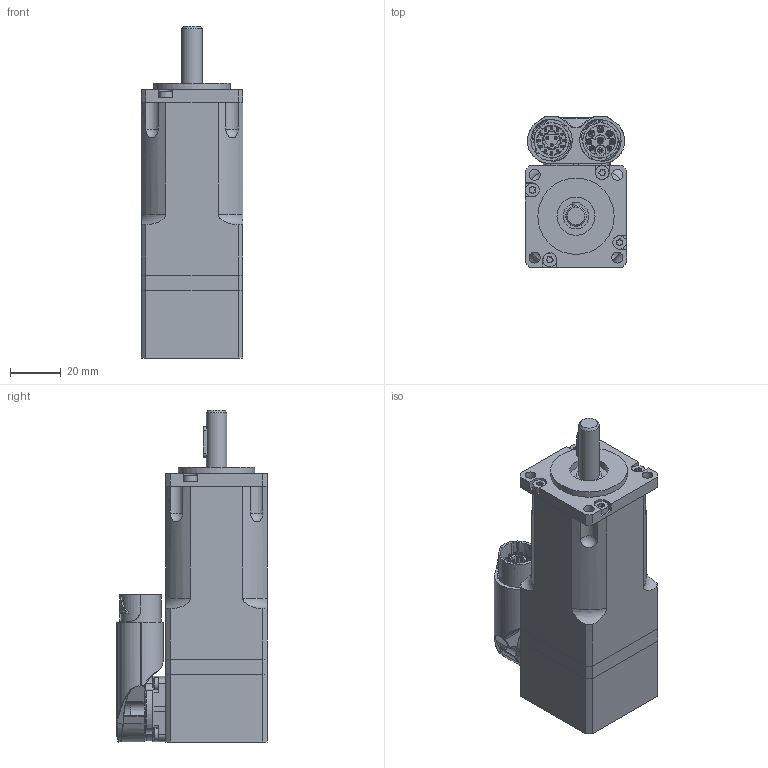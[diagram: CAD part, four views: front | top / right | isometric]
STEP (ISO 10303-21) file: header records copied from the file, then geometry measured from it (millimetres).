
FILE_DESCRIPTION(/* description */ (''),/* implementation_level */ '2;1');
FILE_NAME(/* name */ 'C:\Users\Public\Documents\Autodesk\Inventor LT 2014\Workspace\TG0\3D\tg0_definitivi\DSM5_0x_x0xD\DSM5_05_x0xD.stp',/* time_stamp */ '2016-04-28T09:48:22+02:00',/* author */ ('motion'),/* organization */ (''),/* preprocessor_version */ 'ST-DEVELOPER v15.2',/* originating_system */ 'Autodesk Inventor LT ',/* authorisation */ '');
FILE_SCHEMA (('AUTOMOTIVE_DESIGN { 1 0 10303 214 3 1 1 }'));
Length unit declared in the file: millimetre
Products named in the file (1): DSM5_05_x0xD
Bounding box: 40 x 59.3 x 130.5 mm (x, y, z)
Volume: 112973.9 mm3; surface area: 53566.7 mm2
Topology: 15 solids, 15 shells, 1125 faces, 2951 edges, 1928 vertices
Faces by surface type: cylinder 425, plane 291, bspline 250, cone 79, torus 63, sphere 17
Full cylindrical faces by diameter (mm): 1 x24, 1.2 x3, 1.8 x5, 2.05 x4, 2.224 x4, 2.5 x4, 2.7 x4, 3.2 x6, 4 x2, 4.3 x4, 5 x4, 5.35 x6, 6 x2, 8 x2, 10 x1, 11.75 x1, 15 x1, 16 x1, 16.2 x2, 17.025 x1, 18.8 x1, 19.8 x1, 21.9 x1, 26 x2, 30 x1, 35 x5
Entity records: 40674 total; most frequent: CARTESIAN_POINT 14159, ORIENTED_EDGE 5594, DIRECTION 5246, EDGE_CURVE 2797, AXIS2_PLACEMENT_3D 2221, VERTEX_POINT 1911, EDGE_LOOP 1362, CIRCLE 1225
